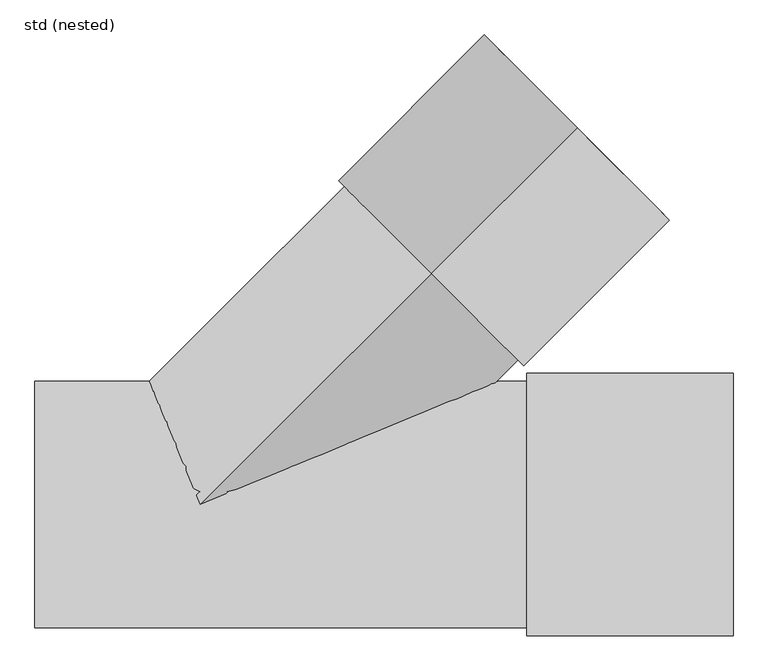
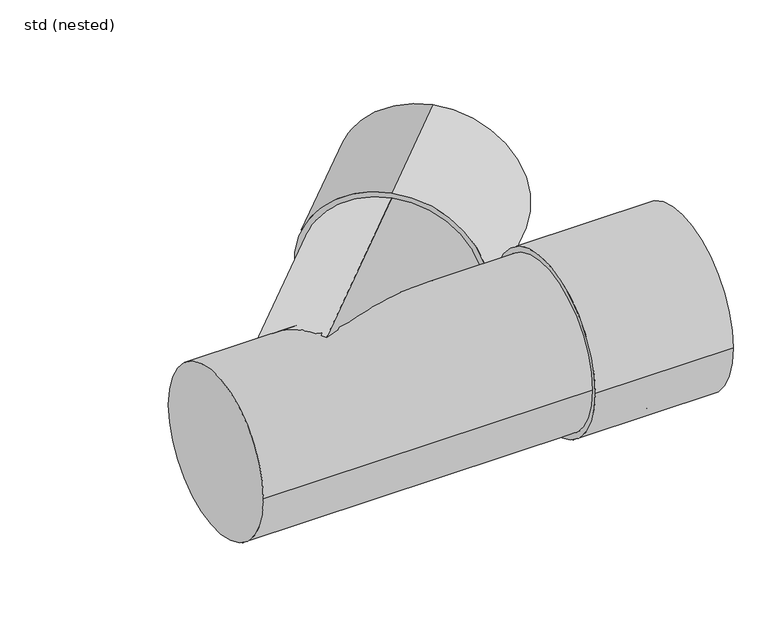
"""IFC4 building model written with IfcOpenShell, lengths in millimetres: pipe fitting geometry, NLRS_52_PIF_WPB_Ultra Kyma T-stuk 2MV SH_Dyka : std (nested)."""

from ifc_helpers import new_model, si_unit, point, frame, origin, origin_2d, place, context, project, spatial, polyline, circle_curve, ellipse_curve, trimmed, segment, composite_curve, outline, extrude, source, transform, mapped, element, save
from ifc_brep_helpers import plane_surface, cylinder_surface, revolved_surface, advanced_brep


def std_nested_a3a13248(model_context):
    return source(origin(), model_context, "Body", "SolidModel", [
        advanced_brep(
        [(548.1814594, 227.0, 0.0), (-93.9998957, 227.0, 0.0), (0.0, 0.0, -227.0), (0.0, 0.0, 227.0), (560.1405204, 559.9165986, -227.0), (560.1405204, 559.9165986, 227.0)],
        [
            (0, 1),
            (1, 2, ellipse_curve(frame((0.0, 0.0, 0.0), z_axis=(-0.9239177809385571, -0.3825910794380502, 0.0), x_axis=(0.38259107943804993, -0.9239177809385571, 0.0)), 245.6928578, 227.0)),
            (2, 0, ellipse_curve(frame((0.0, 0.0, 0.0), z_axis=(0.38259107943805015, -0.923917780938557, 0.0), x_axis=(0.9239177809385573, 0.3825910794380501, 0.0)), 593.3227725, 227.0)),
            (0, 3, ellipse_curve(frame((0.0, 0.0, 0.0), z_axis=(0.38259107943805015, -0.923917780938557, 0.0), x_axis=(0.9239177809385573, 0.3825910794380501, 0.0)), 593.3227725, 227.0)),
            (3, 1, ellipse_curve(frame((0.0, 0.0, 0.0), z_axis=(-0.9239177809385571, -0.3825910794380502, 0.0), x_axis=(0.38259107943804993, -0.9239177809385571, 0.0)), 245.6928578, 227.0)),
            (4, 5, circle_curve(frame((560.1405204, 559.9165986, 0.0), z_axis=(0.7072481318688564, 0.7069654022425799, 0.0), x_axis=(-0.7069654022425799, 0.7072481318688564, 0.0)), 227.0)),
            (5, 4, circle_curve(frame((560.1405204, 559.9165986, 0.0), z_axis=(0.7072481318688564, 0.7069654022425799, 0.0), x_axis=(0.7069654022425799, -0.7072481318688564, 0.0)), 227.0)),
            (4, 2),
            (3, 5),
        ],
        [
            revolved_surface(polyline([(548.1814594, 227.0, 0.0), (-548.1814593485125, 227.0, 0.0)]), (-305.0, 0.0, 0.0), (1.0, 0.0, 0.0)),
            plane_surface(frame((560.1405204, 559.9165986, 0.0), z_axis=(0.7072481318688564, 0.7069654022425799, 0.0), x_axis=(-0.7069654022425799, 0.7072481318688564, 0.0))),
            cylinder_surface(frame((560.1405204, 559.9165986, 0.0), z_axis=(-0.7072481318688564, -0.7069654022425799, 0.0), x_axis=(-0.7069654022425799, 0.7072481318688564, 0.0)), 227.0),
            cylinder_surface(frame((560.1405204, 559.9165986, 0.0), z_axis=(-0.7072481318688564, -0.7069654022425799, 0.0), x_axis=(0.7069654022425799, -0.7072481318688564, 0.0)), 227.0),
        ],
        [
            (0, [[1, 2, 3]]),
            (0, [[-1, 4, 5]]),
            (1, [[6, 7]]),
            (2, [[-6, 8, -2, -5, 9]]),
            (3, [[-7, -9, -4, -3, -8]]),
        ],
    ),
        extrude(outline(composite_curve([segment(trimmed(circle_curve(origin_2d(), 242.0), [point((-242.0, 0.0))], [point((242.0, 0.0))], False, "CARTESIAN"), True, "CONTINUOUS"), segment(trimmed(circle_curve(origin_2d(), 242.0), [point((242.0, 0.0))], [point((-242.0, 0.0))], False, "CARTESIAN"), True, "CONTINUOUS")], self_intersect=False), holes=[composite_curve([segment(trimmed(circle_curve(origin_2d(), 227.0), [point((227.0, 0.0))], [point((-227.0, 0.0))], True, "CARTESIAN"), True, "CONTINUOUS"), segment(trimmed(circle_curve(origin_2d(), 227.0), [point((-227.0, 0.0))], [point((227.0, 0.0))], True, "CARTESIAN"), True, "CONTINUOUS")], self_intersect=False)]), frame((425.7633754, 425.5931722, 0.0), z_axis=(0.7072481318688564, 0.7069654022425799, 0.0), x_axis=(0.0, 0.0, 1.0)), (0.0, 0.0, 1.0), 380.0),
        extrude(outline(composite_curve([segment(trimmed(circle_curve(origin_2d(), 242.0), [point((-242.0, 0.0))], [point((242.0, 0.0))], False, "CARTESIAN"), True, "CONTINUOUS"), segment(trimmed(circle_curve(origin_2d(), 242.0), [point((242.0, 0.0))], [point((-242.0, 0.0))], False, "CARTESIAN"), True, "CONTINUOUS")], self_intersect=False), holes=[composite_curve([segment(trimmed(circle_curve(origin_2d(), 227.0), [point((227.0, 0.0))], [point((-227.0, 0.0))], True, "CARTESIAN"), True, "CONTINUOUS"), segment(trimmed(circle_curve(origin_2d(), 227.0), [point((-227.0, 0.0))], [point((227.0, 0.0))], True, "CARTESIAN"), True, "CONTINUOUS")], self_intersect=False)]), frame((602.0, 0.0, 0.0), z_axis=(1.0, 0.0, 0.0), x_axis=(0.0, 1.0, 0.0)), (0.0, 0.0, 1.0), 380.0),
        extrude(outline(composite_curve([segment(trimmed(circle_curve(origin_2d(), 227.0), [point((-227.0, 0.0))], [point((227.0, 0.0))], False, "CARTESIAN"), True, "CONTINUOUS"), segment(trimmed(circle_curve(origin_2d(), 227.0), [point((227.0, 0.0))], [point((-227.0, 0.0))], False, "CARTESIAN"), True, "CONTINUOUS")], self_intersect=False)), frame((-305.0, 0.0, 0.0), z_axis=(1.0, 0.0, 0.0), x_axis=(0.0, 1.0, 0.0)), (0.0, 0.0, 1.0), 1097.0),
    ])


if __name__ == "__main__":
    model = new_model("IFC4")
    model_context = context("Model", 3, world=origin())
    ifc_project = project(units=[si_unit("LENGTHUNIT", "METRE", prefix="MILLI")], contexts=[model_context])
    site = spatial("IfcSite", under=ifc_project)
    building = spatial("IfcBuilding", under=site)
    placement = place(None, origin())
    std_nested_shape = std_nested_a3a13248(model_context)
    element("IfcPipeFitting", 1, ObjectType="NLRS_52_PIF_WPB_Ultra Kyma T-stuk 2MV SH_Dyka : std (nested)", at=placement, inside=building, context=model_context, shape_type="MappedRepresentation", body=[
        mapped(std_nested_shape, transform((0.0, 0.0, 0.0), x_axis=(1.0, 0.0, 0.0), y_axis=(0.0, 1.0, 0.0), z_axis=(0.0, 0.0, 1.0))),
    ])
    save(model, "model.ifc")
